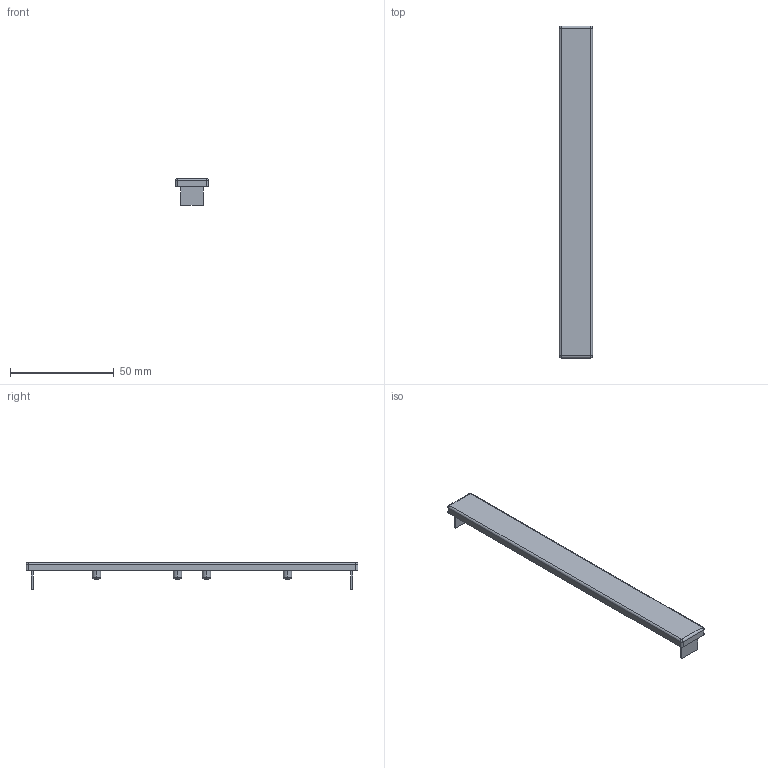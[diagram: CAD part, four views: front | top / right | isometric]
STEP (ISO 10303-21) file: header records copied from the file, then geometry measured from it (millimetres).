
FILE_DESCRIPTION (( 'STEP AP203' ), '1' );
FILE_NAME ('421018_Abdeckkappe 8 16x160.step', '2022-06-24T07:26:43', ( '' ), ( '' ), 'SwSTEP 2.0', 'SolidWorks 2021', '' );
FILE_SCHEMA (( 'CONFIG_CONTROL_DESIGN' ));
Length unit declared in the file: millimetre
Products named in the file (1): 421018_Abdeckkappe 8 16x160
Bounding box: 16 x 160 x 13 mm (x, y, z)
Volume: 8688.6 mm3; surface area: 7538.3 mm2
Topology: 1 solids, 1 shells, 61 faces, 132 edges, 76 vertices
Faces by surface type: plane 25, cylinder 24, torus 8, bspline 4
Entity records: 1735 total; most frequent: CARTESIAN_POINT 326, DIRECTION 300, ORIENTED_EDGE 256, EDGE_CURVE 128, AXIS2_PLACEMENT_3D 114, VERTEX_POINT 76, VECTOR 72, LINE 72
